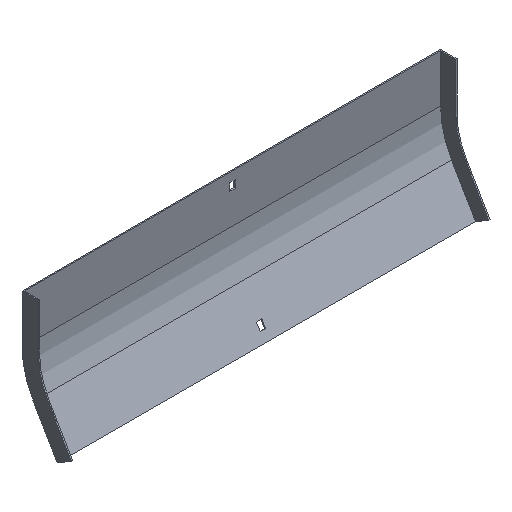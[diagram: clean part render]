
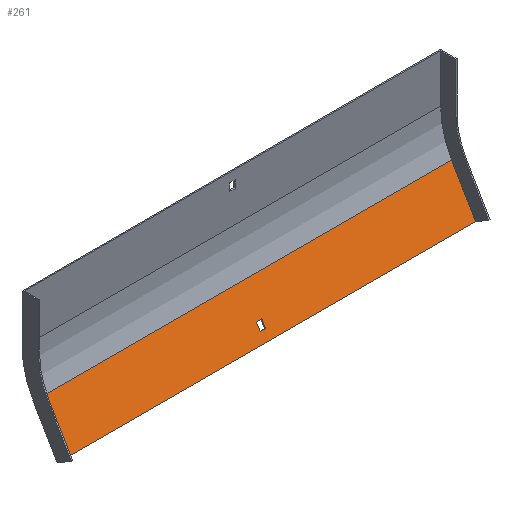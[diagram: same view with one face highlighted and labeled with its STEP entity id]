
A CAD part, isometric view. The second image highlights one B-rep face of the part: STEP entity #261.
In plain terms, the highlighted planar face has unit normal (0, -0.866, 0.5).
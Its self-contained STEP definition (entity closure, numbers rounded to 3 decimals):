
#4 = CARTESIAN_POINT ( 'NONE',  ( 3.25, -38.347, -148.517 ) ) ;
#24 = CARTESIAN_POINT ( 'NONE',  ( -3.25, -14.897, -107.9 ) ) ;
#45 = ORIENTED_EDGE ( 'NONE', *, *, #650, .T. ) ;
#58 = EDGE_CURVE ( 'NONE', #773, #230, #359, .T. ) ;
#69 = ORIENTED_EDGE ( 'NONE', *, *, #813, .T. ) ;
#85 = CARTESIAN_POINT ( 'NONE',  ( 252., -14.897, -107.9 ) ) ;
#94 = EDGE_CURVE ( 'NONE', #805, #269, #561, .T. ) ;
#97 = VECTOR ( 'NONE', #171, 1000. ) ;
#109 = FACE_BOUND ( 'NONE', #429, .T. ) ;
#113 = VECTOR ( 'NONE', #617, 1000. ) ;
#116 = LINE ( 'NONE', #496, #676 ) ;
#135 = VERTEX_POINT ( 'NONE', #742 ) ;
#140 = ORIENTED_EDGE ( 'NONE', *, *, #343, .T. ) ;
#161 = EDGE_CURVE ( 'NONE', #135, #615, #737, .T. ) ;
#171 = DIRECTION ( 'NONE',  ( 0., -0.5, -0.866 ) ) ;
#185 = DIRECTION ( 'NONE',  ( 0., -0.866, 0.5 ) ) ;
#206 = DIRECTION ( 'NONE',  ( -1., 0., 0. ) ) ;
#210 = DIRECTION ( 'NONE',  ( 0., 0.5, 0.866 ) ) ;
#230 = VERTEX_POINT ( 'NONE', #642 ) ;
#233 = CARTESIAN_POINT ( 'NONE',  ( 253.5, -14.897, -107.9 ) ) ;
#239 = EDGE_CURVE ( 'NONE', #230, #615, #116, .T. ) ;
#261 = ADVANCED_FACE ( 'NONE', ( #377, #109 ), #322, .T. ) ;
#264 = ORIENTED_EDGE ( 'NONE', *, *, #239, .F. ) ;
#269 = VERTEX_POINT ( 'NONE', #308 ) ;
#284 = CARTESIAN_POINT ( 'NONE',  ( -3.25, -38.347, -148.517 ) ) ;
#292 = VECTOR ( 'NONE', #210, 1000. ) ;
#308 = CARTESIAN_POINT ( 'NONE',  ( 3.25, -33.847, -140.722 ) ) ;
#322 = PLANE ( 'NONE',  #647 ) ;
#343 = EDGE_CURVE ( 'NONE', #670, #465, #665, .T. ) ;
#356 = ORIENTED_EDGE ( 'NONE', *, *, #58, .F. ) ;
#357 = LINE ( 'NONE', #24, #360 ) ;
#359 = LINE ( 'NONE', #821, #632 ) ;
#360 = VECTOR ( 'NONE', #748, 1000. ) ;
#377 = FACE_OUTER_BOUND ( 'NONE', #734, .T. ) ;
#417 = CARTESIAN_POINT ( 'NONE',  ( -252., -14.897, -107.9 ) ) ;
#429 = EDGE_LOOP ( 'NONE', ( #140, #69, #444, #643 ) ) ;
#431 = LINE ( 'NONE', #752, #97 ) ;
#437 = CARTESIAN_POINT ( 'NONE',  ( 253.5, -14.897, -107.9 ) ) ;
#441 = ORIENTED_EDGE ( 'NONE', *, *, #161, .T. ) ;
#444 = ORIENTED_EDGE ( 'NONE', *, *, #94, .T. ) ;
#465 = VERTEX_POINT ( 'NONE', #284 ) ;
#476 = VECTOR ( 'NONE', #622, 1000. ) ;
#496 = CARTESIAN_POINT ( 'NONE',  ( -252., -14.897, -107.9 ) ) ;
#498 = CARTESIAN_POINT ( 'NONE',  ( -3.25, -33.847, -140.722 ) ) ;
#503 = EDGE_CURVE ( 'NONE', #269, #670, #431, .T. ) ;
#508 = VECTOR ( 'NONE', #206, 1000. ) ;
#561 = LINE ( 'NONE', #824, #476 ) ;
#583 = DIRECTION ( 'NONE',  ( 0., -0.5, -0.866 ) ) ;
#600 = CARTESIAN_POINT ( 'NONE',  ( 252., -43.847, -158.043 ) ) ;
#607 = LINE ( 'NONE', #85, #292 ) ;
#615 = VERTEX_POINT ( 'NONE', #417 ) ;
#617 = DIRECTION ( 'NONE',  ( -1., 0., 0. ) ) ;
#622 = DIRECTION ( 'NONE',  ( 1., 0., 0. ) ) ;
#632 = VECTOR ( 'NONE', #682, 1000. ) ;
#633 = DIRECTION ( 'NONE',  ( 0., 0.5, 0.866 ) ) ;
#642 = CARTESIAN_POINT ( 'NONE',  ( -252., -43.847, -158.043 ) ) ;
#643 = ORIENTED_EDGE ( 'NONE', *, *, #503, .T. ) ;
#647 = AXIS2_PLACEMENT_3D ( 'NONE', #437, #185, #583 ) ;
#650 = EDGE_CURVE ( 'NONE', #773, #135, #607, .T. ) ;
#665 = LINE ( 'NONE', #800, #508 ) ;
#670 = VERTEX_POINT ( 'NONE', #4 ) ;
#676 = VECTOR ( 'NONE', #633, 1000. ) ;
#682 = DIRECTION ( 'NONE',  ( -1., 0., 0. ) ) ;
#734 = EDGE_LOOP ( 'NONE', ( #264, #356, #45, #441 ) ) ;
#737 = LINE ( 'NONE', #233, #113 ) ;
#742 = CARTESIAN_POINT ( 'NONE',  ( 252., -14.897, -107.9 ) ) ;
#748 = DIRECTION ( 'NONE',  ( 0., 0.5, 0.866 ) ) ;
#752 = CARTESIAN_POINT ( 'NONE',  ( 3.25, -14.897, -107.9 ) ) ;
#773 = VERTEX_POINT ( 'NONE', #600 ) ;
#800 = CARTESIAN_POINT ( 'NONE',  ( 253.5, -38.347, -148.517 ) ) ;
#805 = VERTEX_POINT ( 'NONE', #498 ) ;
#813 = EDGE_CURVE ( 'NONE', #465, #805, #357, .T. ) ;
#821 = CARTESIAN_POINT ( 'NONE',  ( 253.5, -43.847, -158.043 ) ) ;
#824 = CARTESIAN_POINT ( 'NONE',  ( 253.5, -33.847, -140.722 ) ) ;
